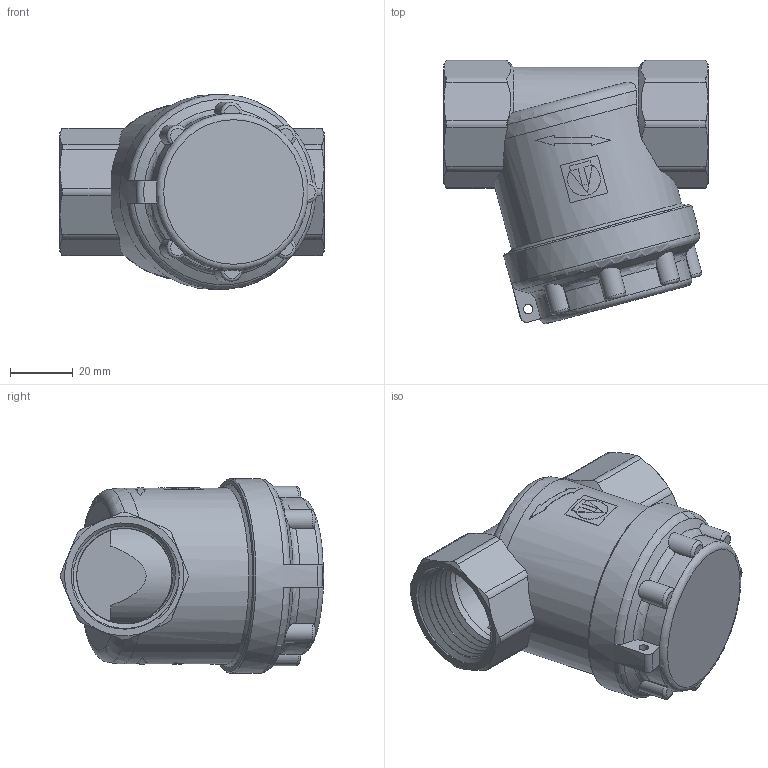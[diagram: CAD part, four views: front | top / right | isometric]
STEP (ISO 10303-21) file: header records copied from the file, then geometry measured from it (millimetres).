
FILE_DESCRIPTION(/* description */ (''),/* implementation_level */ '2;1');
FILE_NAME(/* name */ 'H:\Мишенин_3D\Для каталога DWG\Фильтры\VT.386.N.06.stp',/* time_stamp */ '2019-03-06T08:47:43+03:00',/* author */ ('MisheninAL'),/* organization */ (''),/* preprocessor_version */ 'ST-DEVELOPER v17',/* originating_system */ 'Autodesk Inventor 2019',/* authorisation */ '');
FILE_SCHEMA (('AUTOMOTIVE_DESIGN { 1 0 10303 214 3 1 1 }'));
Length unit declared in the file: millimetre
Products named in the file (1): VT.386.N.06
Bounding box: 84 x 83.67 x 62 mm (x, y, z)
Volume: 96156.4 mm3; surface area: 46994.6 mm2
Topology: 1 solids, 2 shells, 277 faces, 766 edges, 507 vertices
Faces by surface type: plane 113, cylinder 102, cone 30, torus 20, bspline 10, sphere 2
Full cylindrical faces by diameter (mm): 3 x1, 22 x1, 24 x1, 26 x1, 26.98 x1, 28 x1, 30.3 x10, 34.9 x12, 45 x1, 51 x1, 52.5 x1, 56 x2, 56.5 x1, 58 x1, 62 x1
Entity records: 13339 total; most frequent: CARTESIAN_POINT 6543, ORIENTED_EDGE 1532, DIRECTION 1304, EDGE_CURVE 766, AXIS2_PLACEMENT_3D 529, VERTEX_POINT 507, EDGE_LOOP 297, ADVANCED_FACE 277
